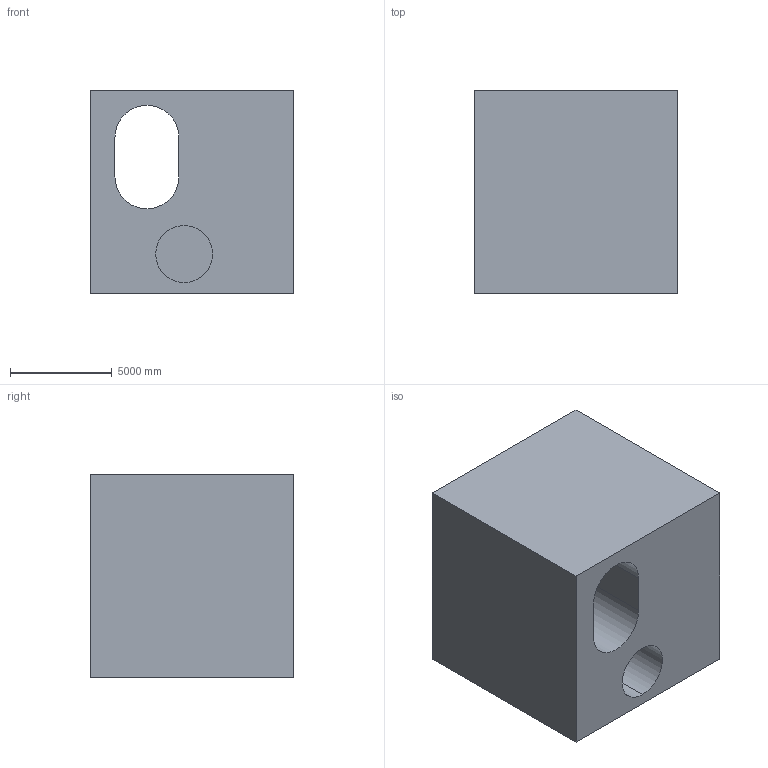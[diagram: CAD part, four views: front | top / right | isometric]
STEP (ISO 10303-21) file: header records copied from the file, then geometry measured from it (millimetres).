
FILE_DESCRIPTION (( 'STEP AP203' ), '1' );
FILE_NAME ('1154.STEP', '2022-08-18T12:58:26', ( 'user' ), ( '' ), 'SwSTEP 2.0', 'SolidWorks 2021', '' );
FILE_SCHEMA (( 'CONFIG_CONTROL_DESIGN' ));
Length unit declared in the file: centimetre
Products named in the file (1): 1154
Bounding box: 10000 x 10000 x 10000 mm (x, y, z)
Volume: 825138112485.6 mm3; surface area: 761446299.9 mm2
Topology: 1 solids, 1 shells, 14 faces, 33 edges, 22 vertices
Faces by surface type: plane 9, cylinder 5
Entity records: 488 total; most frequent: DIRECTION 73, CARTESIAN_POINT 70, ORIENTED_EDGE 66, EDGE_CURVE 33, AXIS2_PLACEMENT_3D 25, LINE 23, VECTOR 23, VERTEX_POINT 22
